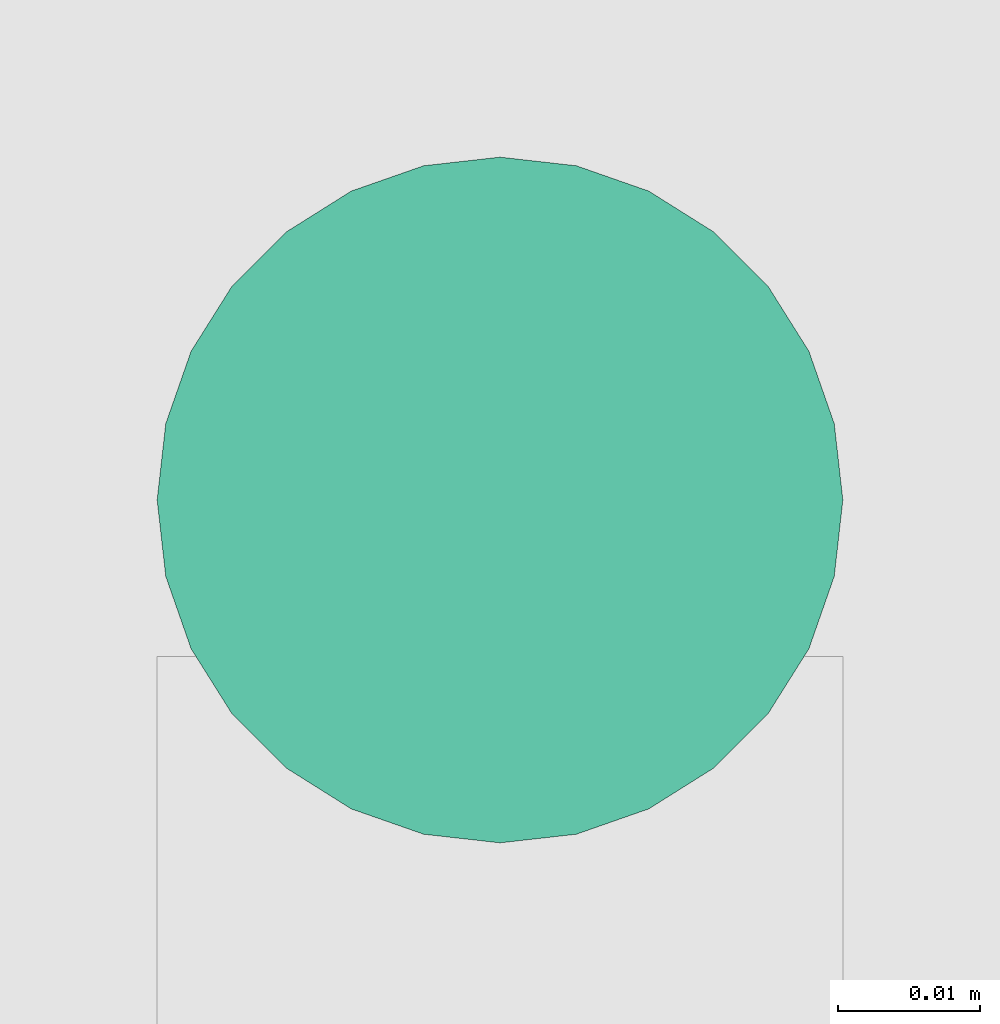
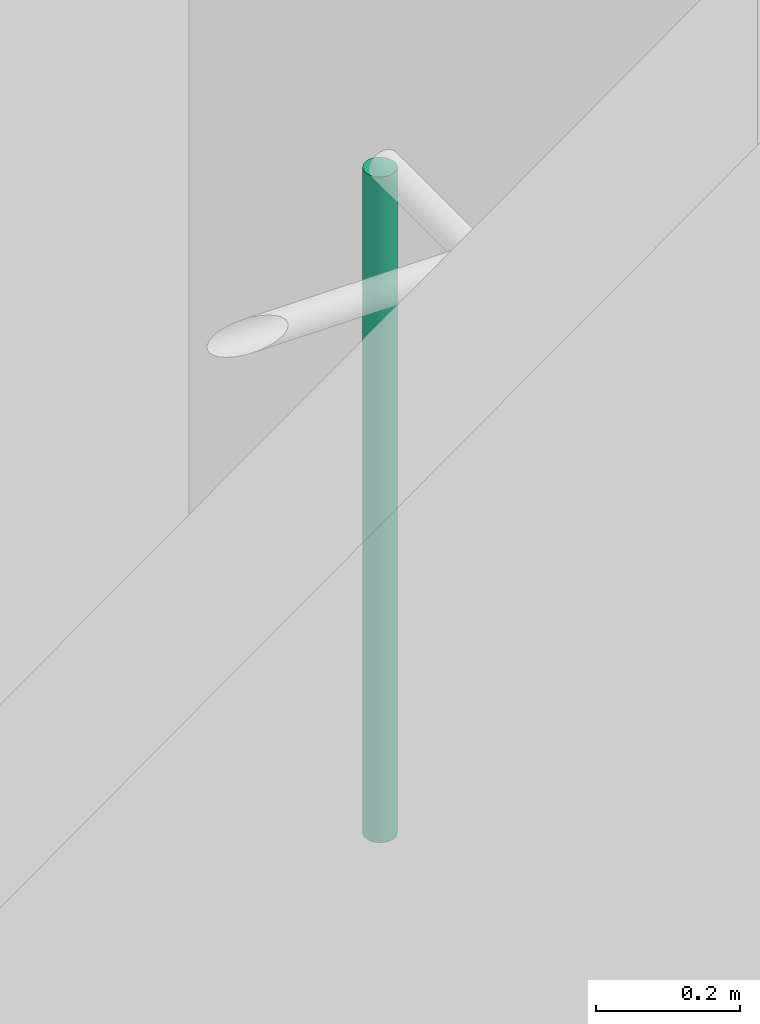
# One storey, part 24 of 72: 1 pipe segment.
"""IFC4 building model written with IfcOpenShell, lengths in centimetres."""

from ifc_helpers import new_model, entity, si_unit, converted_unit, derived_unit, direction, frame, origin, place, context, subcontext, project, spatial, arc, indexed_curve, outline, extrude, type_object, element, save


model = new_model("IFC4")

# Units and contexts
model_context = context("Model", 3, precision=0.001, world=origin(), true_north=direction((6.123233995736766e-17, 1.0)))
body_context = subcontext(model_context, "Body", "Model", "MODEL_VIEW")
ifc_project = project(units=[si_unit("LENGTHUNIT", "METRE", prefix="CENTI"), si_unit("AREAUNIT", "SQUARE_METRE"), si_unit("VOLUMEUNIT", "CUBIC_METRE"), derived_unit("THERMALTRANSMITTANCEUNIT", [(si_unit("MASSUNIT", "GRAM", prefix="KILO"), 1), (si_unit("THERMODYNAMICTEMPERATUREUNIT", "KELVIN"), -1), (si_unit("TIMEUNIT", "SECOND"), -3)]), converted_unit("PLANEANGLEUNIT", "DEGREE", entity("IfcPlaneAngleMeasure", 0.017453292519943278), si_unit("PLANEANGLEUNIT", "RADIAN"), dimensions=[0, 0, 0, 0, 0, 0, 0]), derived_unit("MASSDENSITYUNIT", [(si_unit("MASSUNIT", "GRAM", prefix="KILO"), 1), (si_unit("LENGTHUNIT", "METRE"), -3)]), derived_unit("VAPORPERMEABILITYUNIT", [(si_unit("LENGTHUNIT", "METRE"), -1), (si_unit("TIMEUNIT", "SECOND"), 1)]), derived_unit("USERDEFINED", [(si_unit("MASSUNIT", "GRAM", prefix="KILO"), 1), (si_unit("TIMEUNIT", "SECOND"), -3), (si_unit("LENGTHUNIT", "METRE"), 3), (si_unit("ELECTRICCURRENTUNIT", "AMPERE"), -2)]), derived_unit("SPECIFICHEATCAPACITYUNIT", [(si_unit("THERMODYNAMICTEMPERATUREUNIT", "KELVIN"), -1), (si_unit("LENGTHUNIT", "METRE"), 2), (si_unit("TIMEUNIT", "SECOND"), -2)]), derived_unit("THERMALCONDUCTANCEUNIT", [(si_unit("MASSUNIT", "GRAM", prefix="KILO"), 1), (si_unit("THERMODYNAMICTEMPERATUREUNIT", "KELVIN"), -1), (si_unit("TIMEUNIT", "SECOND"), -3), (si_unit("LENGTHUNIT", "METRE"), 1)]), si_unit("PRESSUREUNIT", "PASCAL"), derived_unit("MODULUSOFELASTICITYUNIT", [(si_unit("MASSUNIT", "GRAM", prefix="KILO"), 1), (si_unit("LENGTHUNIT", "METRE"), -1), (si_unit("TIMEUNIT", "SECOND"), -2)]), derived_unit("THERMALEXPANSIONCOEFFICIENTUNIT", [(si_unit("THERMODYNAMICTEMPERATUREUNIT", "KELVIN"), -1)])], contexts=[model_context])

# Site, building, storey
site_placement = place(None, origin())
site = spatial("IfcSite", under=ifc_project, at=site_placement, Name="Default", CompositionType="ELEMENT")
building_placement = place(site_placement, origin())
building = spatial("IfcBuilding", under=site, at=building_placement, Name="IDS Escape Game Building", CompositionType="ELEMENT")
storey_placement = place(building_placement, frame((0.0, 0.0, 800.0)))
storey = spatial("IfcBuildingStorey", under=building, at=storey_placement, Name="02_Second Floor", CompositionType="ELEMENT", Elevation=800.0)

# Pipe segment
pipe_segment_type = type_object("IfcPipeSegmentType", Name="Pipe Types:Piping Aluminum", PredefinedType="NOTDEFINED")
pipe_segment_placement = place(storey_placement, origin())
element("IfcPipeSegment", 1, at=pipe_segment_placement, inside=storey, type_object=pipe_segment_type, Name="Pipe Types:Piping Aluminum", ObjectType="Pipe Types:Piping Aluminum", PredefinedType="NOTDEFINED", context=body_context, shape_type="SweptSolid", body=[
    extrude(outline(indexed_curve([(2.412999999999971, 0.0), (1.7062486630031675, 1.7062486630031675), (0.0, 2.412999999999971), (-1.7062486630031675, 1.7062486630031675), (-2.412999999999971, 0.0), (-1.7062486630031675, -1.7062486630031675), (0.0, -2.412999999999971), (1.7062486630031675, -1.7062486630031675)], segments=[arc(1, 2, 3), arc(3, 4, 5), arc(5, 6, 7), arc(7, 8, 1)], self_intersect=False)), frame((2326.1500000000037, 686.9000000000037, 128.0), z_axis=(0.0, 0.0, 1.0), x_axis=(-1.0, 0.0, 0.0)), (0.0, 0.0, 1.0), 112.90000000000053),
])

save(model, "model.ifc")
